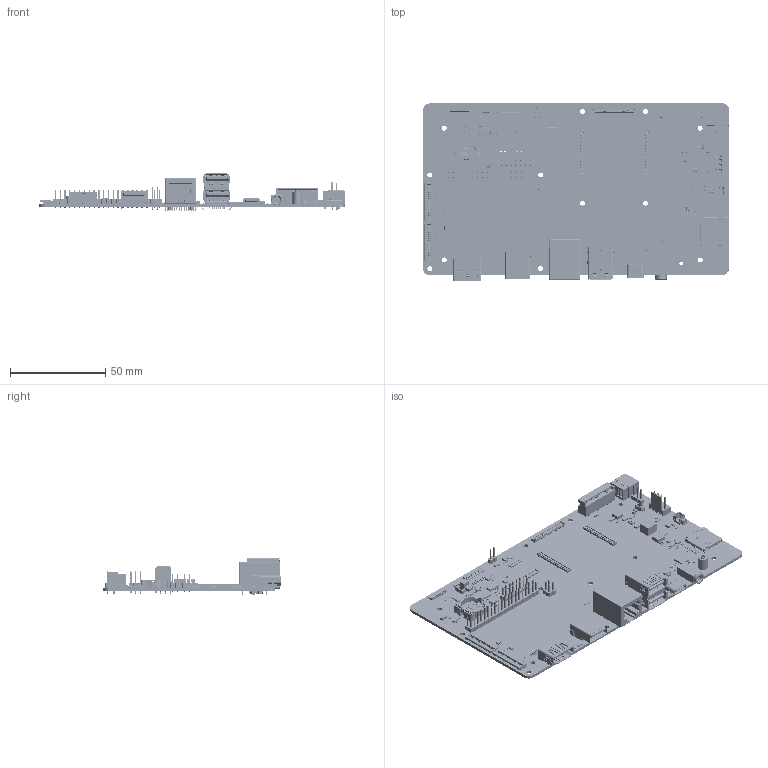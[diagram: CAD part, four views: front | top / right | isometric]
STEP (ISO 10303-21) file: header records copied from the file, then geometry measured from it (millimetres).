
FILE_DESCRIPTION((''),'2;1');
FILE_NAME('RC126_V1_10_20250526_ASM','2025-09-02T09:56:59',('Owen'),(''),'CREO PARAMETRIC BY PTC INC, 2025123','CREO PARAMETRIC BY PTC INC, 2025123','');
FILE_SCHEMA(('CONFIG_CONTROL_DESIGN','SHAPE_APPEARANCE_LAYERS_GROUPS'));
Products named in the file (79): RC126_V1_10_20250526; CML_SM4_0D6_1D5; C0603; MSOP8_0D65_5D0; SOT_23; L_2520; C0402; ESD_D0402; L_5020; L_6050; SOD_123; FB1206; C0805; DO_214AC; SOD_523; SOT23_5; QFN28_0D45_4; WLCSP12_0D4_1D5; R0402; MLP14_0D5_2D5; SOT_323; SOT23_6; QFN12_0D5_2; SOT_723; SOD_323; L_4020; OSC_SM2_3D2X1D5; LED_D0603; FB0603; L_3015; R0603; DFN10_0D5_3; OSC_SM4_3D2X2D5; CML_SM6_0D55_1; LOWER_CONTACT_1; HOLDER_1; REAR_CONTACT_1; S8411-45R_1_2_ASM; ASM0002_ASM; 2_54_40PIN_2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
Assembly tree (220 placements, depth 5):
  RC126_V1_10_20250526_ASM
    RC126_V1_10_20250526
    CML_SM4_0D6_1D5  x4
    C0603  x29
    MSOP8_0D65_5D0  x2
    SOT_23  x11
    L_2520  x2
    C0402  x17
    ESD_D0402  x43
    L_5020
    L_6050
    SOD_123  x2
    FB1206  x2
    C0805  x4
    DO_214AC  x2
    SOD_523  x2
    SOT23_5
    QFN28_0D45_4
    WLCSP12_0D4_1D5
    R0402  x4
    MLP14_0D5_2D5
    SOT_323  x6
    SOT23_6  x2
    QFN12_0D5_2
    SOT_723
    SOD_323
    L_4020
    OSC_SM2_3D2X1D5
    LED_D0603  x2
    FB0603
    L_3015
    R0603  x2
    DFN10_0D5_3
    OSC_SM4_3D2X2D5
    CML_SM6_0D55_1  x4
    ASM0002_ASM
      S8411-45R_1_2_ASM
        LOWER_CONTACT_1
        HOLDER_1
        REAR_CONTACT_1
    2_54_40PIN_2
    2_54_14
    000_4_4
    APCI0164
    0_03_ASM
      HDMI_1_2_2
      XB-U231-091_5
      LPJG0926HENL_2
      484060001_2_2_1_2
      USB-16PIN-TYPEC_FIN_1_252_2_5_2
      20001_2_2
      FAN_HEADER__4PIN__2_54MM-157636_ASM
        FAN_HEADER__4PIN__2_54MM-1576_1_ASM
          FAN_HEADER-PIN_VERTICAL_STANDAR  x4
          FAN_HEADER_4PIN-BODY_STANDARD_1
      TF_14M75X14M5_H2M0_ASM_2_ASM_3__ASM
        CSTT-102010222__ASM_3_ASM_2_ASM_ASM
          MSBR-1_1_2_1_5_1_5
      DC-044A-20A_5
      USER_LIBRARY-ZL201-3_P2-54_L7-6
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Bounding box: 160.01 x 92.82 x 20.05 mm (x, y, z)
Volume: 34969.9 mm3; surface area: 51564 mm2
Topology: 236 solids, 622 shells, 26402 faces, 73792 edges, 48496 vertices
Faces by surface type: plane 19428, cylinder 6140, sphere 590, bspline 96, cone 51, extrusion 49, torus 48
Full cylindrical faces by diameter (mm): 0.04 x2, 0.61 x2
Entity records: 580852 total; most frequent: CARTESIAN_POINT 112658, ORIENTED_EDGE 96108, DIRECTION 90387, EDGE_CURVE 49079, VECTOR 39787, LINE 39768, VERTEX_POINT 32748, AXIS2_PLACEMENT_3D 25300
